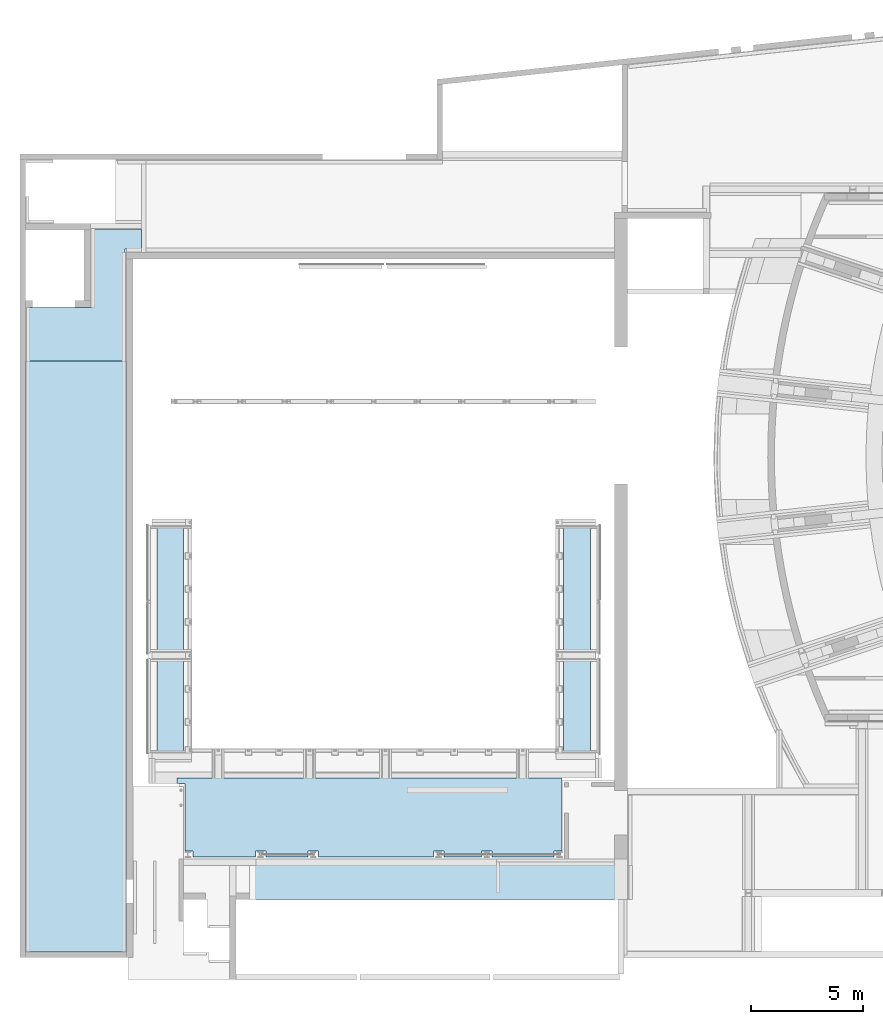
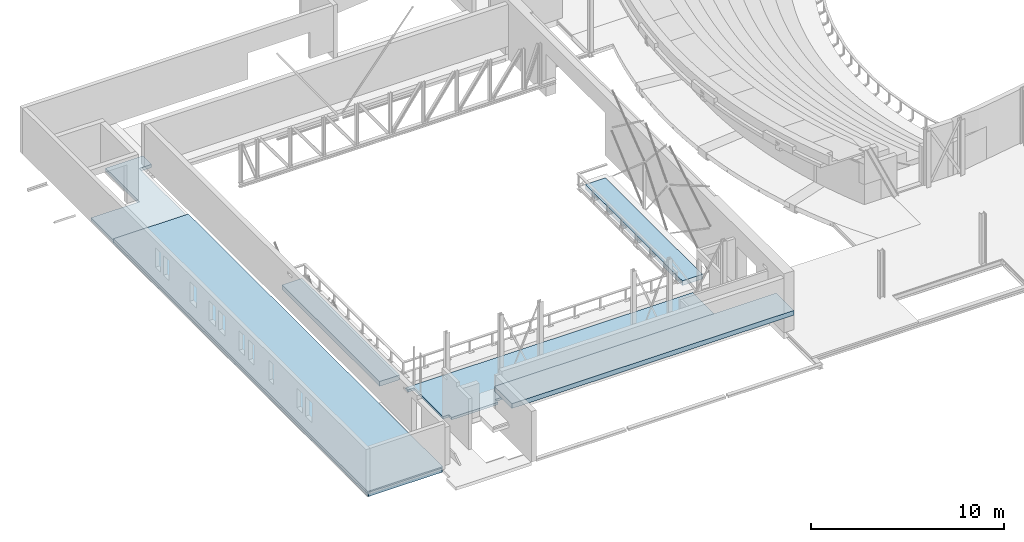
# One storey, part 48 of 68: 7 slabs.
"""IFC2X3 building model written with IfcOpenShell, lengths in millimetres."""

from ifc_helpers import new_model, entity, si_unit, converted_unit, derived_unit, direction, frame, frame_2d, origin, place, context, subcontext, project, spatial, polyline, circle_curve, parameter, trimmed, segment, composite_curve, rectangle, outline, extrude, material, layer, layer_set, layer_usage, type_object, element, save


model = new_model("IFC2X3")

# Units and contexts
model_context = context("Model", 3, precision=0.01, world=origin(), true_north=direction((6.12303176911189e-17, 1.0)))
body_context = subcontext(model_context, "Body", "Model", "MODEL_VIEW")
ifc_project = project(units=[si_unit("LENGTHUNIT", "METRE", prefix="MILLI"), si_unit("AREAUNIT", "SQUARE_METRE", prefix="MILLI"), si_unit("VOLUMEUNIT", "CUBIC_METRE"), converted_unit("PLANEANGLEUNIT", "DEGREE", entity("IfcRatioMeasure", 0.0174532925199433), si_unit("PLANEANGLEUNIT", "RADIAN"), dimensions=[0, 0, 0, 0, 0, 0, 0]), si_unit("MASSUNIT", "GRAM", prefix="KILO"), derived_unit("MASSDENSITYUNIT", [(si_unit("MASSUNIT", "GRAM", prefix="KILO"), 1), (si_unit("LENGTHUNIT", "METRE"), -3)]), derived_unit("MOMENTOFINERTIAUNIT", [(si_unit("LENGTHUNIT", "METRE"), 4)]), si_unit("TIMEUNIT", "SECOND"), si_unit("FREQUENCYUNIT", "HERTZ"), si_unit("THERMODYNAMICTEMPERATUREUNIT", "DEGREE_CELSIUS"), derived_unit("THERMALTRANSMITTANCEUNIT", [(si_unit("MASSUNIT", "GRAM", prefix="KILO"), 1), (si_unit("THERMODYNAMICTEMPERATUREUNIT", "KELVIN"), -1), (si_unit("TIMEUNIT", "SECOND"), -3)]), derived_unit("VOLUMETRICFLOWRATEUNIT", [(si_unit("LENGTHUNIT", "METRE"), 3), (si_unit("TIMEUNIT", "SECOND"), -1)]), si_unit("ELECTRICCURRENTUNIT", "AMPERE"), si_unit("ELECTRICVOLTAGEUNIT", "VOLT"), si_unit("POWERUNIT", "WATT"), si_unit("FORCEUNIT", "NEWTON", prefix="KILO"), si_unit("ILLUMINANCEUNIT", "LUX"), si_unit("LUMINOUSFLUXUNIT", "LUMEN"), si_unit("LUMINOUSINTENSITYUNIT", "CANDELA"), derived_unit("USERDEFINED", [(si_unit("MASSUNIT", "GRAM", prefix="KILO"), -1), (si_unit("LENGTHUNIT", "METRE"), -2), (si_unit("TIMEUNIT", "SECOND"), 3), (si_unit("LUMINOUSFLUXUNIT", "LUMEN"), 1)]), derived_unit("LINEARVELOCITYUNIT", [(si_unit("LENGTHUNIT", "METRE"), 1), (si_unit("TIMEUNIT", "SECOND"), -1)]), si_unit("PRESSUREUNIT", "PASCAL"), derived_unit("USERDEFINED", [(si_unit("LENGTHUNIT", "METRE"), -2), (si_unit("MASSUNIT", "GRAM", prefix="KILO"), 1), (si_unit("TIMEUNIT", "SECOND"), -2)]), derived_unit("LINEARFORCEUNIT", [(si_unit("MASSUNIT", "GRAM", prefix="KILO"), 1), (si_unit("LENGTHUNIT", "METRE"), 1), (si_unit("TIMEUNIT", "SECOND"), -2), (si_unit("LENGTHUNIT", "METRE"), -1)]), derived_unit("PLANARFORCEUNIT", [(si_unit("MASSUNIT", "GRAM", prefix="KILO"), 1), (si_unit("LENGTHUNIT", "METRE"), 1), (si_unit("TIMEUNIT", "SECOND"), -2), (si_unit("LENGTHUNIT", "METRE"), -2)])], contexts=[model_context])

# Site, building, storey
site_placement = place(None, origin())
site = spatial("IfcSite", under=ifc_project, at=site_placement, Name="Theater aan de Parade", CompositionType="ELEMENT")
building_placement = place(site_placement, origin())
building = spatial("IfcBuilding", under=site, at=building_placement, Name="Theater aan de Parade", CompositionType="ELEMENT")
storey_placement = place(building_placement, frame((0.0, 0.0, 8750.0)))
storey = spatial("IfcBuildingStorey", under=building, at=storey_placement, Name="02 tweede verdieping", CompositionType="ELEMENT", Elevation=8750.0)

# Slabs
ifc_material_1 = material(Name="00_PBT_MAT_beton t.p.g._C30/37")
ifc_layer_1 = layer(ifc_material_1, 300.0)
ifc_layer_set_1 = layer_set([ifc_layer_1], Name="Floor:28_PBT_FL_beton t.p.g._d=300_C30/37")
ifc_layer_usage_1 = layer_usage(ifc_layer_set_1, "AXIS3", "POSITIVE", 0.0)
slab_type_1 = type_object("IfcSlabType", Name="Floor:28_PBT_FL_beton t.p.g._d=300_C30/37", PredefinedType="FLOOR", material=ifc_layer_set_1)
slab_1_placement = place(storey_placement, origin())
element("IfcSlab", 1, at=slab_1_placement, inside=storey, type_object=slab_type_1, material=ifc_layer_usage_1, Name="Floor:28_PBT_FL_beton t.p.g._d=300_C30/37", ObjectType="Floor:28_PBT_FL_beton t.p.g._d=300_C30/37", PredefinedType="FLOOR", context=body_context, shape_type="SweptSolid", body=[
    extrude(rectangle(XDim=1817.06392662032, YDim=16900.0011275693, at=frame_2d((1.08002495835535e-12, 2.72848410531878e-12), x_axis=(1.0, 0.0))), frame((29003.8575662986, 13577.7587330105, 1135.0), z_axis=(0.0, 0.0, -1.0), x_axis=(0.0, 1.0, 0.0)), (0.0, 0.0, 1.0), 300.0),
])
ifc_material_2 = material(Name="00_PBT_MAT_systeemvloer")
ifc_layer_2 = layer(ifc_material_2, 260.0)
ifc_layer_set_2 = layer_set([ifc_layer_2], Name="Floor:28_PBT_FL_kanaalplaat_d=260")
ifc_layer_usage_2 = layer_usage(ifc_layer_set_2, "AXIS3", "POSITIVE", 0.0)
slab_type_2 = type_object("IfcSlabType", Name="Floor:28_PBT_FL_kanaalplaat_d=260", PredefinedType="FLOOR", material=ifc_layer_set_2)
slab_2_placement = place(storey_placement, origin())
element("IfcSlab", 2, at=slab_2_placement, inside=storey, type_object=slab_type_2, material=ifc_layer_usage_2, Name="Floor:28_PBT_FL_kanaalplaat_d=260", ObjectType="Floor:28_PBT_FL_kanaalplaat_d=260", PredefinedType="FLOOR", context=body_context, shape_type="SweptSolid", body=[
    extrude(rectangle(XDim=26400.6729253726, YDim=4399.74444879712, at=frame_2d((-1.81898940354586e-12, 0.0), x_axis=(1.0, 0.0))), frame((12803.9847781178, 23519.6635372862, 425.0), z_axis=(0.0, 0.0, -1.0), x_axis=(0.0, 1.0, 0.0)), (0.0, 0.0, 1.0), 260.0),
])
ifc_layer_3 = layer(ifc_material_1, 340.0)
ifc_layer_set_3 = layer_set([ifc_layer_3], Name="Floor:28_PBT_FL_druklaag_d=80 (=340)_C30/37")
ifc_layer_usage_3 = layer_usage(ifc_layer_set_3, "AXIS3", "POSITIVE", 0.0)
slab_type_3 = type_object("IfcSlabType", Name="Floor:28_PBT_FL_druklaag_d=80 (=340)_C30/37", PredefinedType="FLOOR", material=ifc_layer_set_3)
slab_3_placement = place(storey_placement, origin())
element("IfcSlab", 3, at=slab_3_placement, inside=storey, type_object=slab_type_3, material=ifc_layer_usage_3, Name="Floor:28_PBT_FL_druklaag_d=80 (=340)_C30/37", ObjectType="Floor:28_PBT_FL_druklaag_d=80 (=340)_C30/37", PredefinedType="FLOOR", context=body_context, shape_type="SweptSolid", body=[
    extrude(outline(composite_curve([segment(polyline([(-198.875, -2249.87222439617), (-33.8749999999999, -2249.87222439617)]), True, "CONTINUOUS"), segment(polyline([(-33.8749999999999, -2249.87222439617), (-33.8749999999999, -2238.8722243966)]), True, "CONTINUOUS"), segment(trimmed(circle_curve(frame_2d((-24.8749999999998, -2238.8722243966), x_axis=(0.0, 1.0)), 9.0), [parameter(0.0)], [parameter(90.0000000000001)], True, "PARAMETER"), False, "CONTINUOUS"), segment(polyline([(-24.8749999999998, -2229.8722243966), (128.125, -2229.8722243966)]), True, "CONTINUOUS"), segment(trimmed(circle_curve(frame_2d((128.125, -2211.8722243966), x_axis=(0.0, 1.0)), 18.0), [parameter(180.0)], [parameter(226.238257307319)], True, "PARAMETER"), True, "CONTINUOUS"), segment(polyline([(141.124999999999, -2224.32212399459), (141.124999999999, -2199.87222439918)]), True, "CONTINUOUS"), segment(polyline([(141.124999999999, -2199.87222439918), (-118.875, -2199.87222439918)]), True, "CONTINUOUS"), segment(polyline([(-118.875, -2199.87222439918), (-118.875, 2199.87222439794)]), True, "CONTINUOUS"), segment(polyline([(-118.875, 2199.87222439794), (141.124999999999, 2199.87222439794)]), True, "CONTINUOUS"), segment(polyline([(141.124999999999, 2199.87222439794), (141.124999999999, 2224.32212399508)]), True, "CONTINUOUS"), segment(trimmed(circle_curve(frame_2d((128.125, 2211.87222439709), x_axis=(0.0, -1.0)), 18.0), [parameter(133.761742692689)], [parameter(180.0)], True, "PARAMETER"), True, "CONTINUOUS"), segment(polyline([(128.125, 2229.87222439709), (-24.8749999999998, 2229.87222439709)]), True, "CONTINUOUS"), segment(trimmed(circle_curve(frame_2d((-24.8749999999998, 2238.87222439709), x_axis=(0.0, -1.0)), 9.0), [parameter(270.0)], [parameter(0.0)], True, "PARAMETER"), False, "CONTINUOUS"), segment(polyline([(-33.8749999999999, 2238.87222439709), (-33.8749999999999, 2249.87222439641)]), True, "CONTINUOUS"), segment(polyline([(-33.8749999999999, 2249.87222439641), (-198.875, 2249.87222439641)]), True, "CONTINUOUS"), segment(polyline([(-198.875, 2249.87222439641), (-198.875, -2249.87222439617)]), True, "CONTINUOUS")], self_intersect=False)), frame((12803.9847781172, 10319.3270745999, 306.125), z_axis=(0.0, 1.0, 0.0), x_axis=(0.0, 0.0, -1.0)), (0.0, 0.0, 1.0), 26400.6729253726),
])
ifc_layer_4 = layer(ifc_material_1, 150.0)
ifc_layer_set_4 = layer_set([ifc_layer_4], Name="Floor:28_PBT_FL_beton t.p.g._d=150_C30/37")
ifc_layer_usage_4 = layer_usage(ifc_layer_set_4, "AXIS3", "POSITIVE", 0.0)
slab_type_4 = type_object("IfcSlabType", Name="Floor:28_PBT_FL_beton t.p.g._d=150_C30/37", PredefinedType="FLOOR", material=ifc_layer_set_4)
slab_4_placement = place(storey_placement, origin())
element("IfcSlab", 4, at=slab_4_placement, inside=storey, type_object=slab_type_4, material=ifc_layer_usage_4, Name="Floor:28_PBT_FL_beton t.p.g._d=150_C30/37", ObjectType="Floor:28_PBT_FL_beton t.p.g._d=150_C30/37", PredefinedType="FLOOR", context=body_context, shape_type="SweptSolid", body=[
    extrude(outline(polyline([(2644.63060293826, -8135.38261816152), (2879.62802104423, -8135.38261816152), (2879.62802104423, 9064.60440023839), (-370.387147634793, 9064.60440023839), (-370.387147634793, 8709.60440023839), (-660.387147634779, 8709.60440023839), (-660.387147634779, 5929.61738183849), (-370.38714763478, 5929.61738183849), (-370.38714763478, 5459.61738183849), (-660.387147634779, 5459.61738183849), (-660.387147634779, 3779.61738183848), (-370.387147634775, 3779.61738183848), (-370.387147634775, 3309.61738183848), (-660.387147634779, 3309.61738183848), (-660.387147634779, -1820.38261816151), (-370.387147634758, -1820.38261816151), (-370.387147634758, -2290.38261816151), (-660.387147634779, -2290.38261816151), (-660.387147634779, -4170.38261816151), (-370.387147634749, -4170.38261816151), (-370.387147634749, -4640.38261816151), (-660.387147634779, -4640.38261816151), (-660.387147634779, -7420.38261886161), (-370.387147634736, -7420.38261886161), (-370.387147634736, -7775.38261816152), (2644.63060293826, -7775.38261816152), (2644.63060293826, -8135.38261816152)])), frame((25459.2396213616, 15216.6778439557, 0.0), z_axis=(0.0, 0.0, -1.0), x_axis=(0.0, 1.0, 0.0)), (0.0, 0.0, 1.0), 150.000000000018),
])
ifc_layer_5 = layer(ifc_material_1, 300.0)
ifc_layer_set_5 = layer_set([ifc_layer_5], Name="Floor:28_PBT_FL_staalplaatbeton_d=300_C30/37")
ifc_layer_usage_5 = layer_usage(ifc_layer_set_5, "AXIS3", "POSITIVE", 0.0)
slab_type_5 = type_object("IfcSlabType", Name="Floor:28_PBT_FL_staalplaatbeton_d=300_C30/37", PredefinedType="FLOOR", material=ifc_layer_set_5)
slab_5_placement = place(storey_placement, origin())
element("IfcSlab", 5, at=slab_5_placement, inside=storey, type_object=slab_type_5, material=ifc_layer_usage_5, Name="Floor:28_PBT_FL_staalplaatbeton_d=300_C30/37", ObjectType="Floor:28_PBT_FL_staalplaatbeton_d=300_C30/37", PredefinedType="FLOOR", context=body_context, shape_type="SweptSolid", body=[
    extrude(rectangle(XDim=10114.9999999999, YDim=1199.99999999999, at=frame_2d((-2.27373675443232e-12, 3.24007487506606e-12), x_axis=(1.0, 0.0))), frame((17018.8570032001, 24300.7922985, 0.0), z_axis=(0.0, 0.0, -1.0), x_axis=(0.0, 1.0, 0.0)), (0.0, 0.0, 1.0), 300.0),
])
ifc_layer_usage_6 = layer_usage(ifc_layer_set_5, "AXIS3", "POSITIVE", 0.0)
slab_type_6 = type_object("IfcSlabType", Name="Floor:28_PBT_FL_staalplaatbeton_d=300_C30/37", PredefinedType="FLOOR", material=ifc_layer_set_5)
slab_6_placement = place(storey_placement, origin())
element("IfcSlab", 6, at=slab_6_placement, inside=storey, type_object=slab_type_6, material=ifc_layer_usage_6, Name="Floor:28_PBT_FL_staalplaatbeton_d=300_C30/37", ObjectType="Floor:28_PBT_FL_staalplaatbeton_d=300_C30/37", PredefinedType="FLOOR", context=body_context, shape_type="SweptSolid", body=[
    extrude(rectangle(XDim=10080.0, YDim=1200.00000000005, at=frame_2d((2.27373675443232e-12, 6.48014975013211e-12), x_axis=(1.0, 0.0))), frame((35188.8574772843, 24318.2922984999, 0.0), z_axis=(0.0, 0.0, -1.0), x_axis=(0.0, 1.0, 0.0)), (0.0, 0.0, 1.0), 300.0),
])
ifc_layer_6 = layer(ifc_material_2, 200.0)
ifc_layer_set_6 = layer_set([ifc_layer_6], Name="Floor:28_PBT_FL_massieve plaat_d=200")
ifc_layer_usage_7 = layer_usage(ifc_layer_set_6, "AXIS3", "POSITIVE", 0.0)
slab_type_7 = type_object("IfcSlabType", Name="Floor:28_PBT_FL_massieve plaat_d=200", PredefinedType="FLOOR", material=ifc_layer_set_6)
slab_7_placement = place(storey_placement, origin())
element("IfcSlab", 7, at=slab_7_placement, inside=storey, type_object=slab_type_7, material=ifc_layer_usage_7, Name="Floor:28_PBT_FL_massieve plaat_d=200", ObjectType="Floor:28_PBT_FL_massieve plaat_d=200", PredefinedType="FLOOR", context=body_context, shape_type="SweptSolid", body=[
    extrude(outline(polyline([(-3330.0, -3107.84408596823), (-930.0, -3107.84408596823), (-930.0, -207.099637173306), (2580.0, -207.099637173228), (2580.0, 2023.04336031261), (1680.0, 2023.04336031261), (1680.0, 1291.90036282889), (-3330.0, 1291.90036282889), (-3330.0, -3107.84408596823)])), frame((13711.9566396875, 40050.0, 365.0), z_axis=(0.0, 0.0, -1.0), x_axis=(0.0, 1.0, 0.0)), (0.0, 0.0, 1.0), 200.0),
])

save(model, "model.ifc")
